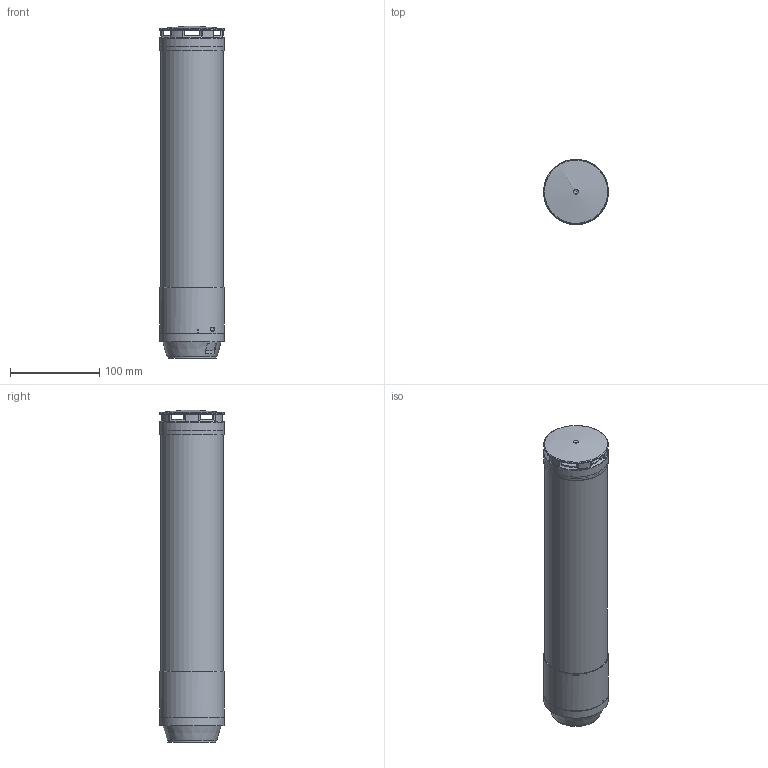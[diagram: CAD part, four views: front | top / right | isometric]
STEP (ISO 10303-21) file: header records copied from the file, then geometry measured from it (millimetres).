
FILE_DESCRIPTION(/* description */ ('Customer-3D'),/* implementation_level */ '2;1');
FILE_NAME(/* name */ 'C:\CEWorkDir\0050569C0EFC1EDC9EA67AFEC987C0C4\in\100000010252_prt_000.step',/* time_stamp */ '2022-01-19T15:30:12+01:00',/* author */ ('JENNERT'),/* organization */ ('WERMA Signaltechnik GmbH+Co.KG'),/* preprocessor_version */ 'ST-DEVELOPER v17',/* originating_system */ 'Autodesk Inventor 2018',/* authorisation */ 'public');
FILE_SCHEMA (('AUTOMOTIVE_DESIGN { 1 0 10303 214 3 1 1 }'));
Length unit declared in the file: millimetre
Products named in the file (1): 100000010252_prt_000_1
Bounding box: 72.5 x 72.5 x 371.38 mm (x, y, z)
Volume: 1385972.8 mm3; surface area: 103527.6 mm2
Topology: 1 solids, 2 shells, 387 faces, 1026 edges, 671 vertices
Faces by surface type: plane 143, bspline 99, cylinder 72, cone 44, torus 20, sphere 9
Full cylindrical faces by diameter (mm): 1 x4, 6 x2, 10.5 x1, 17.5 x1, 54 x1, 70 x1, 71.357 x1, 72.5 x4
Entity records: 15260 total; most frequent: CARTESIAN_POINT 5519, ORIENTED_EDGE 2044, DIRECTION 1821, EDGE_CURVE 1022, AXIS2_PLACEMENT_3D 735, VERTEX_POINT 673, EDGE_LOOP 437, CIRCLE 410
